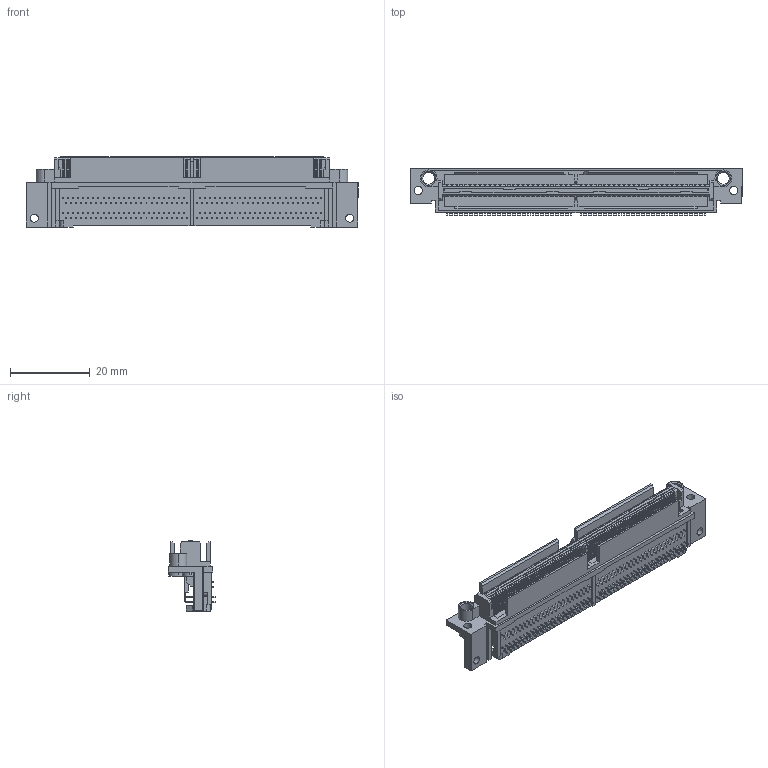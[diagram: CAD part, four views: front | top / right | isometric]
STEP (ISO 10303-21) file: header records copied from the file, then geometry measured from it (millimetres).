
FILE_DESCRIPTION (( 'STEP AP203' ), '1' );
FILE_NAME ('30094-200T-FC MINIDOCK RIGHT ANGLE PLUG STEP R0 ALL.STEP', '2024-04-05T00:59:11', ( '' ), ( '' ), 'SwSTEP 2.0', 'SolidWorks 2023', '' );
FILE_SCHEMA (( 'CONFIG_CONTROL_DESIGN' ));
Length unit declared in the file: millimetre
Products named in the file (1): 30094-200T-FC MINIDOCK RIGHT ANGLE PLUG STEP R0 ALL
Bounding box: 83.4 x 11.86 x 17.65 mm (x, y, z)
Volume: 5304.9 mm3; surface area: 8774.7 mm2
Topology: 1 solids, 1 shells, 4932 faces, 14364 edges, 9432 vertices
Faces by surface type: plane 4280, cylinder 648, cone 4
Entity records: 161477 total; most frequent: CARTESIAN_POINT 28741, ORIENTED_EDGE 28728, DIRECTION 25922, EDGE_CURVE 14364, LINE 12664, VECTOR 12664, VERTEX_POINT 9432, AXIS2_PLACEMENT_3D 6629
